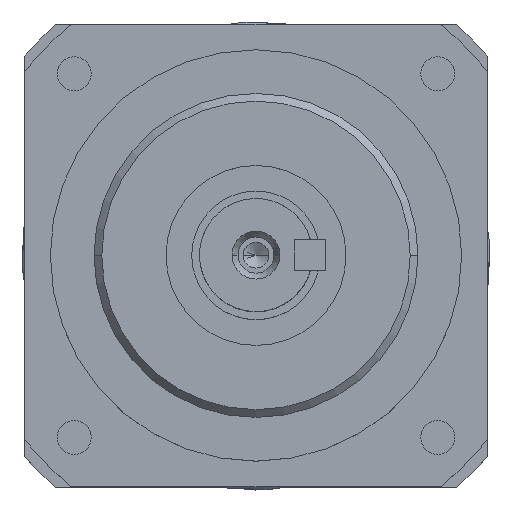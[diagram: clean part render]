
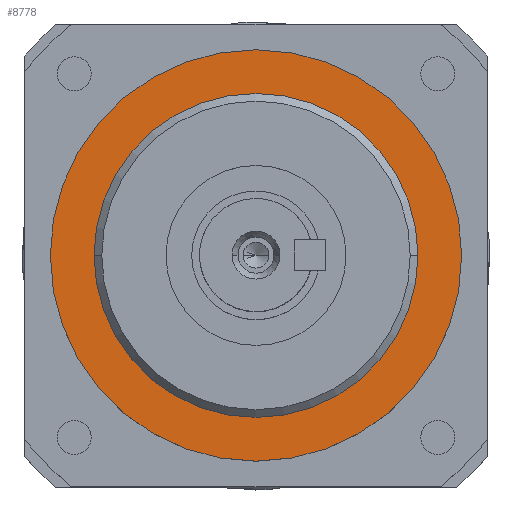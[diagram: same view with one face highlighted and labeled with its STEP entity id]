
A CAD part, top view. The second image highlights one B-rep face of the part: STEP entity #8778.
In plain terms, the highlighted planar face has unit normal (0, 0, 1).
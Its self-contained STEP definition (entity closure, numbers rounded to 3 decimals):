
#272 = EDGE_LOOP ( 'NONE', ( #23537, #32851 ) ) ;
#361 = DIRECTION ( 'NONE',  ( 0., 0., 1. ) ) ;
#5661 = CARTESIAN_POINT ( 'NONE',  ( 31.5, 0., -1.5 ) ) ;
#5673 = DIRECTION ( 'NONE',  ( -1., 0., 0. ) ) ;
#8778 = ADVANCED_FACE ( 'NONE', ( #36876, #36913 ), #24625, .F. ) ;
#9051 = VERTEX_POINT ( 'NONE', #5661 ) ;
#11687 = EDGE_CURVE ( 'NONE', #27467, #33174, #42598, .T. ) ;
#12453 = AXIS2_PLACEMENT_3D ( 'NONE', #21319, #361, #24797 ) ;
#16092 = EDGE_CURVE ( 'NONE', #33174, #27467, #29145, .T. ) ;
#17644 = EDGE_CURVE ( 'NONE', #9051, #32487, #42387, .T. ) ;
#20851 = DIRECTION ( 'NONE',  ( 1., 0., 0. ) ) ;
#20952 = DIRECTION ( 'NONE',  ( 0., 0., -1. ) ) ;
#20965 = CARTESIAN_POINT ( 'NONE',  ( 0., 0., -1.5 ) ) ;
#21031 = AXIS2_PLACEMENT_3D ( 'NONE', #28188, #28138, #5673 ) ;
#21319 = CARTESIAN_POINT ( 'NONE',  ( 0., 0., -1.5 ) ) ;
#22165 = AXIS2_PLACEMENT_3D ( 'NONE', #20965, #20952, #20851 ) ;
#23537 = ORIENTED_EDGE ( 'NONE', *, *, #40424, .F. ) ;
#23965 = CARTESIAN_POINT ( 'NONE',  ( -40., 0., -1.5 ) ) ;
#24625 = PLANE ( 'NONE',  #44095 ) ;
#24740 = CIRCLE ( 'NONE', #12453, 31.5 ) ;
#24797 = DIRECTION ( 'NONE',  ( -1., 0., 0. ) ) ;
#25480 = CARTESIAN_POINT ( 'NONE',  ( 0., 31.5, -1.5 ) ) ;
#27429 = DIRECTION ( 'NONE',  ( 0., 0., -1. ) ) ;
#27467 = VERTEX_POINT ( 'NONE', #30559 ) ;
#27910 = EDGE_LOOP ( 'NONE', ( #38798, #41517 ) ) ;
#28138 = DIRECTION ( 'NONE',  ( 0., 0., 1. ) ) ;
#28188 = CARTESIAN_POINT ( 'NONE',  ( 0., 0., -1.5 ) ) ;
#29145 = CIRCLE ( 'NONE', #22165, 40. ) ;
#30559 = CARTESIAN_POINT ( 'NONE',  ( 40., 0., -1.5 ) ) ;
#30721 = DIRECTION ( 'NONE',  ( 1., 0., 0. ) ) ;
#30775 = DIRECTION ( 'NONE',  ( 0., 0., -1. ) ) ;
#30866 = CARTESIAN_POINT ( 'NONE',  ( 0., 0., -1.5 ) ) ;
#32487 = VERTEX_POINT ( 'NONE', #35432 ) ;
#32851 = ORIENTED_EDGE ( 'NONE', *, *, #17644, .F. ) ;
#33174 = VERTEX_POINT ( 'NONE', #23965 ) ;
#35432 = CARTESIAN_POINT ( 'NONE',  ( -31.5, 0., -1.5 ) ) ;
#36876 = FACE_BOUND ( 'NONE', #272, .T. ) ;
#36913 = FACE_OUTER_BOUND ( 'NONE', #27910, .T. ) ;
#38798 = ORIENTED_EDGE ( 'NONE', *, *, #11687, .F. ) ;
#39954 = AXIS2_PLACEMENT_3D ( 'NONE', #30866, #30775, #30721 ) ;
#40424 = EDGE_CURVE ( 'NONE', #32487, #9051, #24740, .T. ) ;
#41517 = ORIENTED_EDGE ( 'NONE', *, *, #16092, .F. ) ;
#42387 = CIRCLE ( 'NONE', #21031, 31.5 ) ;
#42598 = CIRCLE ( 'NONE', #39954, 40. ) ;
#42721 = DIRECTION ( 'NONE',  ( -1., 0., 0. ) ) ;
#44095 = AXIS2_PLACEMENT_3D ( 'NONE', #25480, #27429, #42721 ) ;
